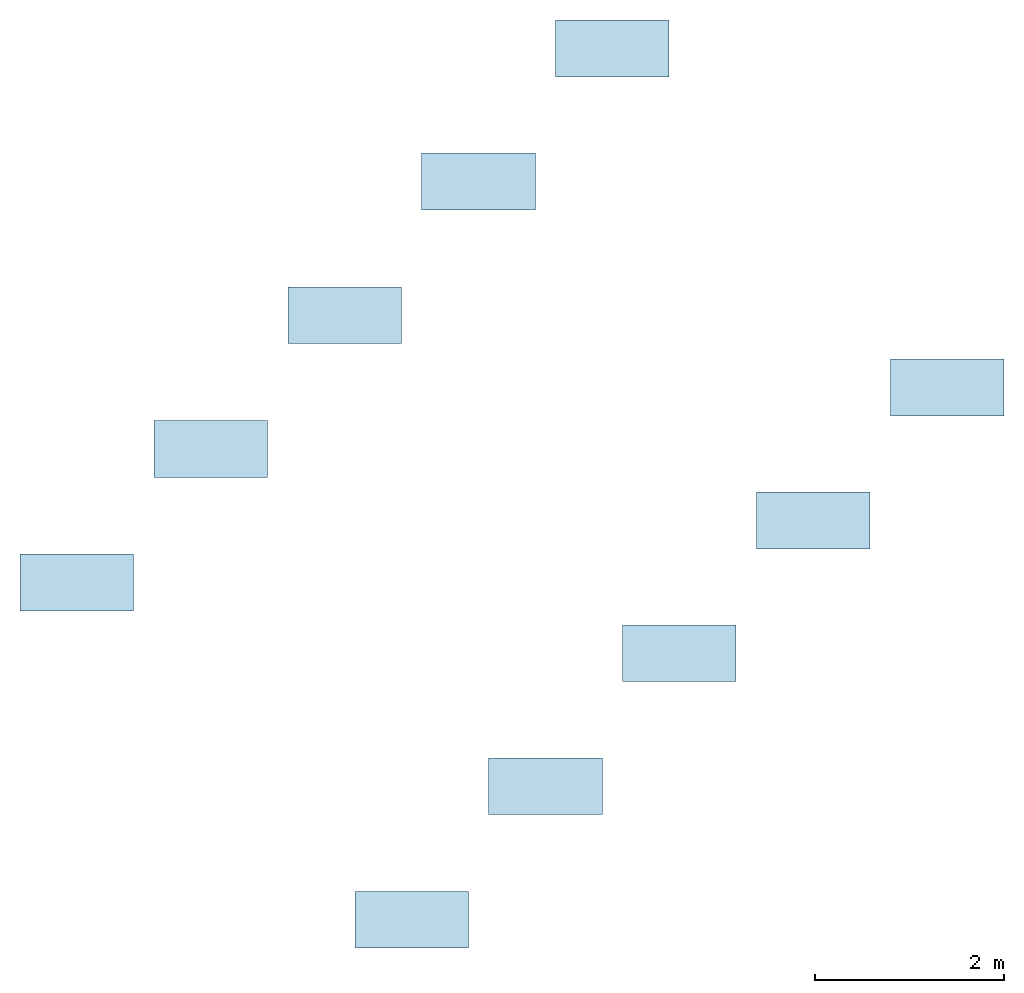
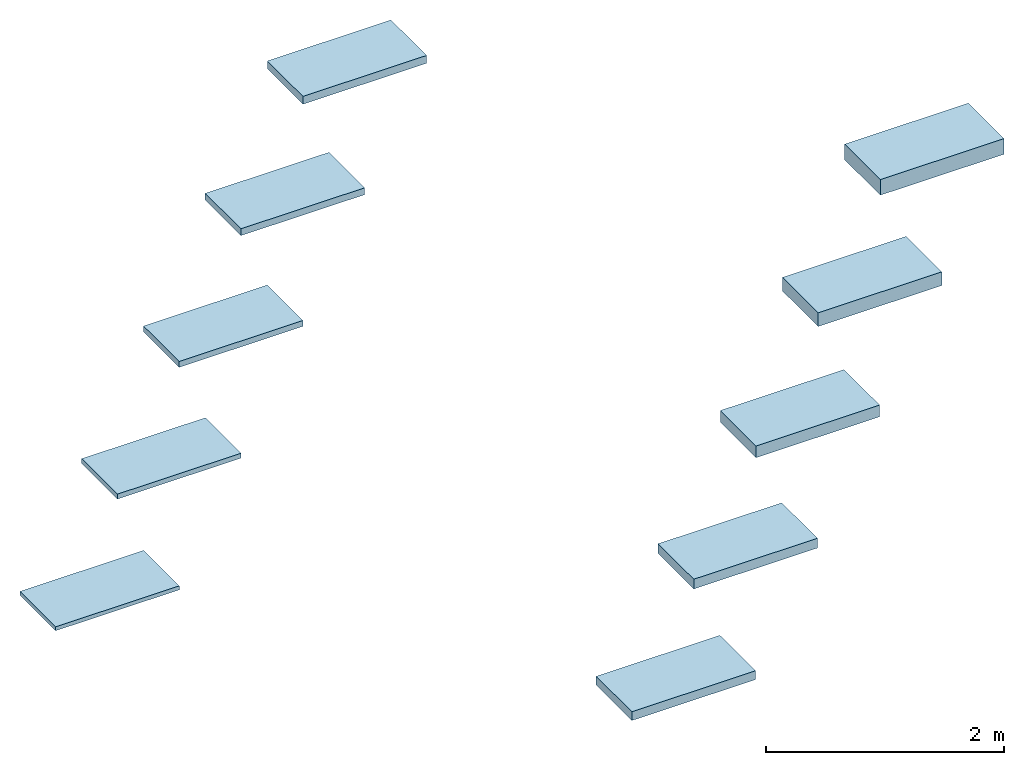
# One storey: 10 slabs, 10 elements without a shape of their own.
"""IFC2X3 building model written with IfcOpenShell, lengths in millimetres."""

from ifc_helpers import new_model, entity, si_unit, converted_unit, derived_unit, direction, frame, frame_2d, origin, origin_2d_with_axis, place, context, subcontext, project, spatial, rectangle, extrude, type_object, element, aggregate, save


model = new_model("IFC2X3")

# Units and contexts
model_context = context("Model", 3, precision=0.01, world=origin(), true_north=direction((6.12303176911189e-17, 1.0)))
context_of_model = context(None, 3, precision=0.01, world=origin(), true_north=direction((6.12303176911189e-17, 1.0)))
body_context = subcontext(model_context, "Body", "Model", "MODEL_VIEW")
ifc_project = project(units=[si_unit("LENGTHUNIT", "METRE", prefix="MILLI"), si_unit("AREAUNIT", "SQUARE_METRE"), si_unit("VOLUMEUNIT", "CUBIC_METRE"), converted_unit("PLANEANGLEUNIT", "DEGREE", entity("IfcRatioMeasure", 0.0174532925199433), si_unit("PLANEANGLEUNIT", "RADIAN"), dimensions=[0, 0, 0, 0, 0, 0, 0]), si_unit("MASSUNIT", "GRAM", prefix="KILO"), derived_unit("MASSDENSITYUNIT", [(si_unit("MASSUNIT", "GRAM", prefix="KILO"), 1), (si_unit("LENGTHUNIT", "METRE"), -3)]), derived_unit("MOMENTOFINERTIAUNIT", [(si_unit("LENGTHUNIT", "METRE"), 4)]), si_unit("TIMEUNIT", "SECOND"), si_unit("FREQUENCYUNIT", "HERTZ"), si_unit("THERMODYNAMICTEMPERATUREUNIT", "DEGREE_CELSIUS"), derived_unit("THERMALTRANSMITTANCEUNIT", [(si_unit("MASSUNIT", "GRAM", prefix="KILO"), 1), (si_unit("THERMODYNAMICTEMPERATUREUNIT", "KELVIN"), -1), (si_unit("TIMEUNIT", "SECOND"), -3)]), derived_unit("VOLUMETRICFLOWRATEUNIT", [(si_unit("LENGTHUNIT", "METRE"), 3), (si_unit("TIMEUNIT", "SECOND"), -1)]), si_unit("ELECTRICCURRENTUNIT", "AMPERE"), si_unit("ELECTRICVOLTAGEUNIT", "VOLT"), si_unit("POWERUNIT", "WATT"), si_unit("FORCEUNIT", "NEWTON", prefix="KILO"), si_unit("ILLUMINANCEUNIT", "LUX"), si_unit("LUMINOUSFLUXUNIT", "LUMEN"), si_unit("LUMINOUSINTENSITYUNIT", "CANDELA"), derived_unit("USERDEFINED", [(si_unit("MASSUNIT", "GRAM", prefix="KILO"), -1), (si_unit("LENGTHUNIT", "METRE"), -2), (si_unit("TIMEUNIT", "SECOND"), 3), (si_unit("LUMINOUSFLUXUNIT", "LUMEN"), 1)]), derived_unit("LINEARVELOCITYUNIT", [(si_unit("LENGTHUNIT", "METRE"), 1), (si_unit("TIMEUNIT", "SECOND"), -1)]), si_unit("PRESSUREUNIT", "PASCAL"), derived_unit("USERDEFINED", [(si_unit("LENGTHUNIT", "METRE"), -2), (si_unit("MASSUNIT", "GRAM", prefix="KILO"), 1), (si_unit("TIMEUNIT", "SECOND"), -2)]), derived_unit("LINEARFORCEUNIT", [(si_unit("MASSUNIT", "GRAM", prefix="KILO"), 1), (si_unit("LENGTHUNIT", "METRE"), 1), (si_unit("TIMEUNIT", "SECOND"), -2), (si_unit("LENGTHUNIT", "METRE"), -1)]), derived_unit("PLANARFORCEUNIT", [(si_unit("MASSUNIT", "GRAM", prefix="KILO"), 1), (si_unit("LENGTHUNIT", "METRE"), 1), (si_unit("TIMEUNIT", "SECOND"), -2), (si_unit("LENGTHUNIT", "METRE"), -2)])], contexts=[model_context, context_of_model])

# Site, building, storey
site_placement = place(None, origin())
site = spatial("IfcSite", under=ifc_project, at=site_placement, Name="Default", CompositionType="ELEMENT")
building_placement = place(site_placement, origin())
building = spatial("IfcBuilding", under=site, at=building_placement, CompositionType="ELEMENT")
storey_placement = place(building_placement, frame((0.0, 0.0, 1200.0)))
storey = spatial("IfcBuildingStorey", under=building, at=storey_placement, Name="lengte 1200", CompositionType="ELEMENT", Elevation=1200.0)

# Roof, slab
roof_1_placement = place(storey_placement, frame((946.636385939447, 1873.76259721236, 0.0)))
roof_1 = element("IfcRoof", 1, at=roof_1_placement, inside=storey, Name="Basic Roof:NLRS_27_RO_Rock4all_40x600x1200mm:5042", ObjectType="Basic Roof:NLRS_27_RO_Rock4all_40x600x1200mm", ShapeType="NOTDEFINED")
slab_type_1 = type_object("IfcSlabType", Name="Basic Roof:NLRS_27_RO_Rock4all_40x600x1200mm", PredefinedType="ROOF")
slab_1_placement = place(roof_1_placement, origin())
slab_1 = element("IfcSlab", 2, at=slab_1_placement, type_object=slab_type_1, Name="Basic Roof:NLRS_27_RO_Rock4all_40x600x1200mm:5042", ObjectType="Basic Roof:NLRS_27_RO_Rock4all_40x600x1200mm", PredefinedType="NOTDEFINED", context=body_context, shape_type="SweptSolid", body=[
    extrude(rectangle(XDim=1200.0, YDim=600.0, at=frame_2d((0.0, 1.13686837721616e-13), x_axis=(1.0, 0.0))), frame((600.0, 300.0, 0.0)), (0.0, 0.0, 1.0), 40.0000000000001),
])
aggregate(roof_1, [slab_1])

roof_2_placement = place(storey_placement, frame((2360.84994831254, 3285.47615958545, 0.0)))
roof_2 = element("IfcRoof", 3, at=roof_2_placement, inside=storey, Name="Basic Roof:NLRS_27_RO_Rock4all_50x600x1200mm:5238", ObjectType="Basic Roof:NLRS_27_RO_Rock4all_50x600x1200mm", ShapeType="NOTDEFINED")
slab_type_2 = type_object("IfcSlabType", Name="Basic Roof:NLRS_27_RO_Rock4all_50x600x1200mm", PredefinedType="ROOF")
slab_2_placement = place(roof_2_placement, origin())
slab_2 = element("IfcSlab", 4, at=slab_2_placement, type_object=slab_type_2, Name="Basic Roof:NLRS_27_RO_Rock4all_50x600x1200mm:5238", ObjectType="Basic Roof:NLRS_27_RO_Rock4all_50x600x1200mm", PredefinedType="NOTDEFINED", context=body_context, shape_type="SweptSolid", body=[
    extrude(rectangle(XDim=1200.0, YDim=600.0, at=origin_2d_with_axis()), frame((600.0, 300.0, 0.0)), (0.0, 0.0, 1.0), 50.0),
])
aggregate(roof_2, [slab_2])

roof_3_placement = place(storey_placement, frame((3775.06351068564, 4697.18972195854, 0.0)))
roof_3 = element("IfcRoof", 5, at=roof_3_placement, inside=storey, Name="Basic Roof:NLRS_27_RO_Rock4all_60x600x1200mm:5266", ObjectType="Basic Roof:NLRS_27_RO_Rock4all_60x600x1200mm", ShapeType="NOTDEFINED")
slab_type_3 = type_object("IfcSlabType", Name="Basic Roof:NLRS_27_RO_Rock4all_60x600x1200mm", PredefinedType="ROOF")
slab_3_placement = place(roof_3_placement, origin())
slab_3 = element("IfcSlab", 6, at=slab_3_placement, type_object=slab_type_3, Name="Basic Roof:NLRS_27_RO_Rock4all_60x600x1200mm:5266", ObjectType="Basic Roof:NLRS_27_RO_Rock4all_60x600x1200mm", PredefinedType="NOTDEFINED", context=body_context, shape_type="SweptSolid", body=[
    extrude(rectangle(XDim=1200.0, YDim=600.0, at=origin_2d_with_axis()), frame((600.0, 300.0, 0.0)), (0.0, 0.0, 1.0), 59.9999999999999),
])
aggregate(roof_3, [slab_3])

roof_4_placement = place(storey_placement, frame((5189.27707305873, 6108.90328433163, 0.0)))
roof_4 = element("IfcRoof", 7, at=roof_4_placement, inside=storey, Name="Basic Roof:NLRS_27_RO_Rock4all_70x600x1200mm:5292", ObjectType="Basic Roof:NLRS_27_RO_Rock4all_70x600x1200mm", ShapeType="NOTDEFINED")
slab_type_4 = type_object("IfcSlabType", Name="Basic Roof:NLRS_27_RO_Rock4all_70x600x1200mm", PredefinedType="ROOF")
slab_4_placement = place(roof_4_placement, origin())
slab_4 = element("IfcSlab", 8, at=slab_4_placement, type_object=slab_type_4, Name="Basic Roof:NLRS_27_RO_Rock4all_70x600x1200mm:5292", ObjectType="Basic Roof:NLRS_27_RO_Rock4all_70x600x1200mm", PredefinedType="NOTDEFINED", context=body_context, shape_type="SweptSolid", body=[
    extrude(rectangle(XDim=1200.0, YDim=600.0, at=origin_2d_with_axis()), frame((600.0, 300.0, 0.0)), (0.0, 0.0, 1.0), 70.0000000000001),
])
aggregate(roof_4, [slab_4])

roof_5_placement = place(storey_placement, frame((6603.49063543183, 7515.61684670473, 0.0)))
roof_5 = element("IfcRoof", 9, at=roof_5_placement, inside=storey, Name="Basic Roof:NLRS_27_RO_Rock4all_80x600x1200mm:5303", ObjectType="Basic Roof:NLRS_27_RO_Rock4all_80x600x1200mm", ShapeType="NOTDEFINED")
slab_type_5 = type_object("IfcSlabType", Name="Basic Roof:NLRS_27_RO_Rock4all_80x600x1200mm", PredefinedType="ROOF")
slab_5_placement = place(roof_5_placement, origin())
slab_5 = element("IfcSlab", 10, at=slab_5_placement, type_object=slab_type_5, Name="Basic Roof:NLRS_27_RO_Rock4all_80x600x1200mm:5303", ObjectType="Basic Roof:NLRS_27_RO_Rock4all_80x600x1200mm", PredefinedType="NOTDEFINED", context=body_context, shape_type="SweptSolid", body=[
    extrude(rectangle(XDim=1200.0, YDim=600.0, at=origin_2d_with_axis()), frame((600.0, 300.0, 0.0)), (0.0, 0.0, 1.0), 80.0),
])
aggregate(roof_5, [slab_5])

roof_6_placement = place(storey_placement, frame((4482.17029187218, -1686.77130872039, 0.0)))
roof_6 = element("IfcRoof", 11, at=roof_6_placement, inside=storey, Name="Basic Roof:NLRS_27_RO_Rock4all_90x600x1200mm:5462", ObjectType="Basic Roof:NLRS_27_RO_Rock4all_90x600x1200mm", ShapeType="NOTDEFINED")
slab_type_6 = type_object("IfcSlabType", Name="Basic Roof:NLRS_27_RO_Rock4all_90x600x1200mm", PredefinedType="ROOF")
slab_6_placement = place(roof_6_placement, origin())
slab_6 = element("IfcSlab", 12, at=slab_6_placement, type_object=slab_type_6, Name="Basic Roof:NLRS_27_RO_Rock4all_90x600x1200mm:5462", ObjectType="Basic Roof:NLRS_27_RO_Rock4all_90x600x1200mm", PredefinedType="NOTDEFINED", context=body_context, shape_type="SweptSolid", body=[
    extrude(rectangle(XDim=1200.0, YDim=600.0, at=frame_2d((5.11590769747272e-13, 1.13686837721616e-13), x_axis=(1.0, 0.0))), frame((600.0, 300.0, 0.0)), (0.0, 0.0, 1.0), 90.0000000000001),
])
aggregate(roof_6, [slab_6])

roof_7_placement = place(storey_placement, frame((5896.38385424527, -277.55774634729, 0.0)))
roof_7 = element("IfcRoof", 13, at=roof_7_placement, inside=storey, Name="Basic Roof:NLRS_27_RO_Rock4all_100x600x1200mm:5487", ObjectType="Basic Roof:NLRS_27_RO_Rock4all_100x600x1200mm", ShapeType="NOTDEFINED")
slab_type_7 = type_object("IfcSlabType", Name="Basic Roof:NLRS_27_RO_Rock4all_100x600x1200mm", PredefinedType="ROOF")
slab_7_placement = place(roof_7_placement, origin())
slab_7 = element("IfcSlab", 14, at=slab_7_placement, type_object=slab_type_7, Name="Basic Roof:NLRS_27_RO_Rock4all_100x600x1200mm:5487", ObjectType="Basic Roof:NLRS_27_RO_Rock4all_100x600x1200mm", PredefinedType="NOTDEFINED", context=body_context, shape_type="SweptSolid", body=[
    extrude(rectangle(XDim=1200.0, YDim=600.0, at=origin_2d_with_axis()), frame((600.0, 300.0, 0.0)), (0.0, 0.0, 1.0), 100.0),
])
aggregate(roof_7, [slab_7])

roof_8_placement = place(storey_placement, frame((7310.59741661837, 1126.6558160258, 0.0)))
roof_8 = element("IfcRoof", 15, at=roof_8_placement, inside=storey, Name="Basic Roof:NLRS_27_RO_Rock4all_120x600x1200mm:5557", ObjectType="Basic Roof:NLRS_27_RO_Rock4all_120x600x1200mm", ShapeType="NOTDEFINED")
slab_type_8 = type_object("IfcSlabType", Name="Basic Roof:NLRS_27_RO_Rock4all_120x600x1200mm", PredefinedType="ROOF")
slab_8_placement = place(roof_8_placement, origin())
slab_8 = element("IfcSlab", 16, at=slab_8_placement, type_object=slab_type_8, Name="Basic Roof:NLRS_27_RO_Rock4all_120x600x1200mm:5557", ObjectType="Basic Roof:NLRS_27_RO_Rock4all_120x600x1200mm", PredefinedType="NOTDEFINED", context=body_context, shape_type="SweptSolid", body=[
    extrude(rectangle(XDim=1200.0, YDim=600.0, at=frame_2d((0.0, -1.13686837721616e-13), x_axis=(1.0, 0.0))), frame((600.0, 300.0, 0.0)), (0.0, 0.0, 1.0), 120.0),
])
aggregate(roof_8, [slab_8])

roof_9_placement = place(storey_placement, frame((8724.81097899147, 2530.86937839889, 0.0)))
roof_9 = element("IfcRoof", 17, at=roof_9_placement, inside=storey, Name="Basic Roof:NLRS_27_RO_Rock4all_140x600x1200mm:5576", ObjectType="Basic Roof:NLRS_27_RO_Rock4all_140x600x1200mm", ShapeType="NOTDEFINED")
slab_type_9 = type_object("IfcSlabType", Name="Basic Roof:NLRS_27_RO_Rock4all_140x600x1200mm", PredefinedType="ROOF")
slab_9_placement = place(roof_9_placement, origin())
slab_9 = element("IfcSlab", 18, at=slab_9_placement, type_object=slab_type_9, Name="Basic Roof:NLRS_27_RO_Rock4all_140x600x1200mm:5576", ObjectType="Basic Roof:NLRS_27_RO_Rock4all_140x600x1200mm", PredefinedType="NOTDEFINED", context=body_context, shape_type="SweptSolid", body=[
    extrude(rectangle(XDim=1200.0, YDim=600.0, at=frame_2d((5.11590769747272e-13, 2.55795384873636e-13), x_axis=(1.0, 0.0))), frame((600.0, 300.0, 0.0)), (0.0, 0.0, 1.0), 140.0),
])
aggregate(roof_9, [slab_9])

roof_10_placement = place(storey_placement, frame((10139.0245413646, 3935.08294077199, 0.0)))
roof_10 = element("IfcRoof", 19, at=roof_10_placement, inside=storey, Name="Basic Roof:NLRS_27_RO_Rock4all_160x600x1200mm:5595", ObjectType="Basic Roof:NLRS_27_RO_Rock4all_160x600x1200mm", ShapeType="NOTDEFINED")
slab_type_10 = type_object("IfcSlabType", Name="Basic Roof:NLRS_27_RO_Rock4all_160x600x1200mm", PredefinedType="ROOF")
slab_10_placement = place(roof_10_placement, origin())
slab_10 = element("IfcSlab", 20, at=slab_10_placement, type_object=slab_type_10, Name="Basic Roof:NLRS_27_RO_Rock4all_160x600x1200mm:5595", ObjectType="Basic Roof:NLRS_27_RO_Rock4all_160x600x1200mm", PredefinedType="NOTDEFINED", context=body_context, shape_type="SweptSolid", body=[
    extrude(rectangle(XDim=1200.0, YDim=600.0, at=frame_2d((1.08002495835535e-12, -2.55795384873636e-13), x_axis=(1.0, 0.0))), frame((600.0, 300.0, 0.0)), (0.0, 0.0, 1.0), 160.0),
])
aggregate(roof_10, [slab_10])

save(model, "model.ifc")
